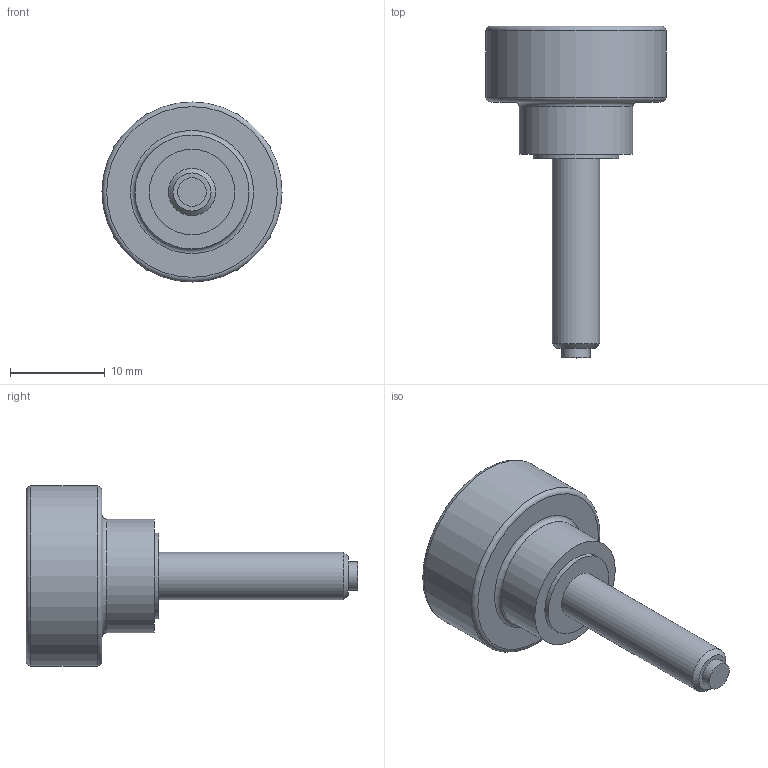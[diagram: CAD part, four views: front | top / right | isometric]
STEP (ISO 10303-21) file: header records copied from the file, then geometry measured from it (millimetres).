
FILE_DESCRIPTION( ( 'STEP AP203' ), '1' );
FILE_NAME( 'C:/Temp/Ganter_Step_05_03_2020/data/2_2/gn_421_10/Hollow knurled knob, with tip GN 421.10-M5-20-KU.stp', '2020-03-05T12:25:31', ( 'License CC BY-ND 4.0' ), ( 'CADENAS' ), ' ', 'PARTsolutions', ' ' );
FILE_SCHEMA( ( 'CONFIG_CONTROL_DESIGN' ) );
Length unit declared in the file: millimetre
Products named in the file (1): _Hollow knurled knob, with tip GN 421.10-M5-20-KU
Bounding box: 19 x 35 x 19 mm (x, y, z)
Volume: 2310.5 mm3; surface area: 1852.6 mm2
Topology: 1 solids, 1 shells, 19 faces, 30 edges, 19 vertices
Faces by surface type: plane 8, cylinder 7, torus 3, cone 1
Full cylindrical faces by diameter (mm): 3 x1, 5 x1, 8 x1, 9 x1, 12 x1, 16 x1, 19 x1
Entity records: 418 total; most frequent: DIRECTION 76, CARTESIAN_POINT 56, AXIS2_PLACEMENT_3D 38, EDGE_LOOP 36, ORIENTED_EDGE 36, FACE_OUTER_BOUND 29, ADVANCED_FACE 19, EDGE_CURVE 18
